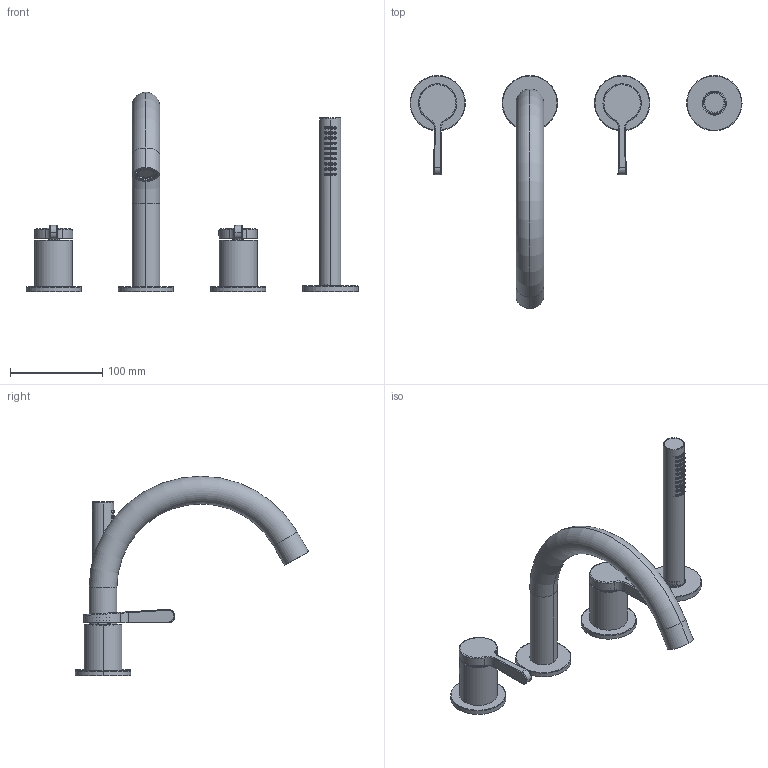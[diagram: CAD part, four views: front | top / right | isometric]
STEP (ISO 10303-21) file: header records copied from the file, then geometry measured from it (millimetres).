
FILE_DESCRIPTION((''),'2;1');
FILE_NAME('DIS_3D_L965','2025-11-03T11:52:36',('Luca'),(''),'CREO PARAMETRIC BY PTC INC, 2025010','CREO PARAMETRIC BY PTC INC, 2025010','');
FILE_SCHEMA(('AUTOMOTIVE_DESIGN { 1 0 10303 214 1 1 1 1 }'));
Length unit declared in the file: millimetre
Products named in the file (1): DIS_3D_L965
Bounding box: 360 x 252.99 x 216.3 mm (x, y, z)
Volume: 402960.3 mm3; surface area: 159052.6 mm2
Topology: 6 solids, 7 shells, 828 faces, 2061 edges, 1317 vertices
Faces by surface type: cylinder 230, cone 188, plane 171, torus 128, bspline 106, sphere 5
Entity records: 56581 total; most frequent: CARTESIAN_POINT 32250, ORIENTED_EDGE 4106, DIRECTION 3530, EDGE_CURVE 2053, AXIS2_PLACEMENT_3D 1455, VERTEX_POINT 1317, EDGE_LOOP 1030, FACE_OUTER_BOUND 828
